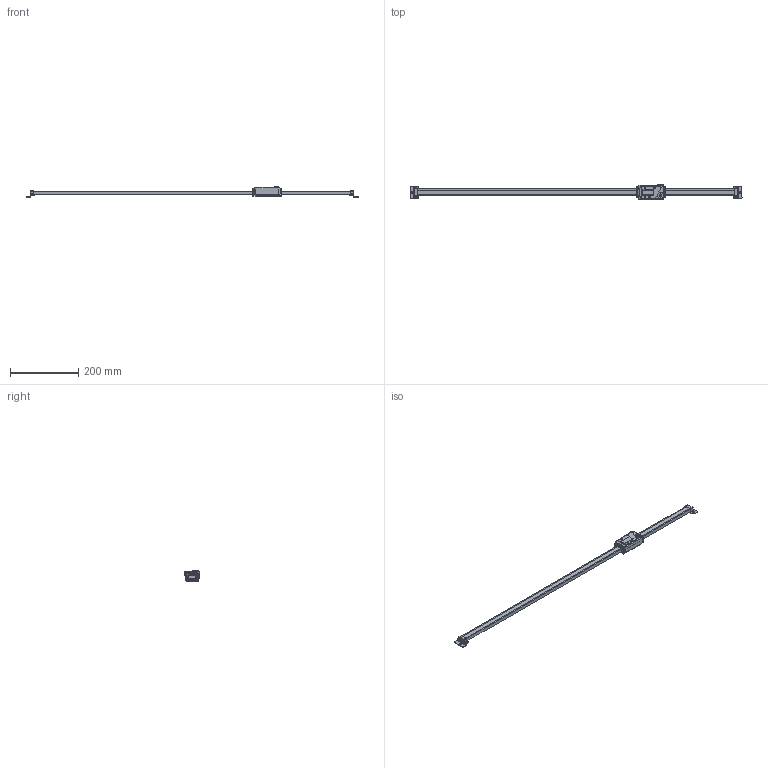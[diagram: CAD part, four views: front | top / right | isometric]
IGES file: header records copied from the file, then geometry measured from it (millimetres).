
Start section: Elysium IGES Interface
Global section: file name: 142HK:\20_商品設計\商品群\測器\41_製品情報\00_製品寸法図\3Dデータ提供\SD全機種_3Dデータ\00_3DCADデータHP掲載用\SD_3Dデータ_iges\572-466_SD-80E.igs; native system: Creo Elements/Direct Modeling 18.1I  13-Aug-2016; preprocessor: Creo Element/Direct IGES_3D V2.2; author: Unknown; organization: Unknown; date: 20191011.154041; units: millimetre
Bounding box: 974 x 43.1 x 30.02 mm (x, y, z)
Volume: 259296.1 mm3; surface area: 90613.2 mm2
Topology: 4 solids, 5 shells, 625 faces, 1653 edges, 1065 vertices
Faces by surface type: bspline 625
